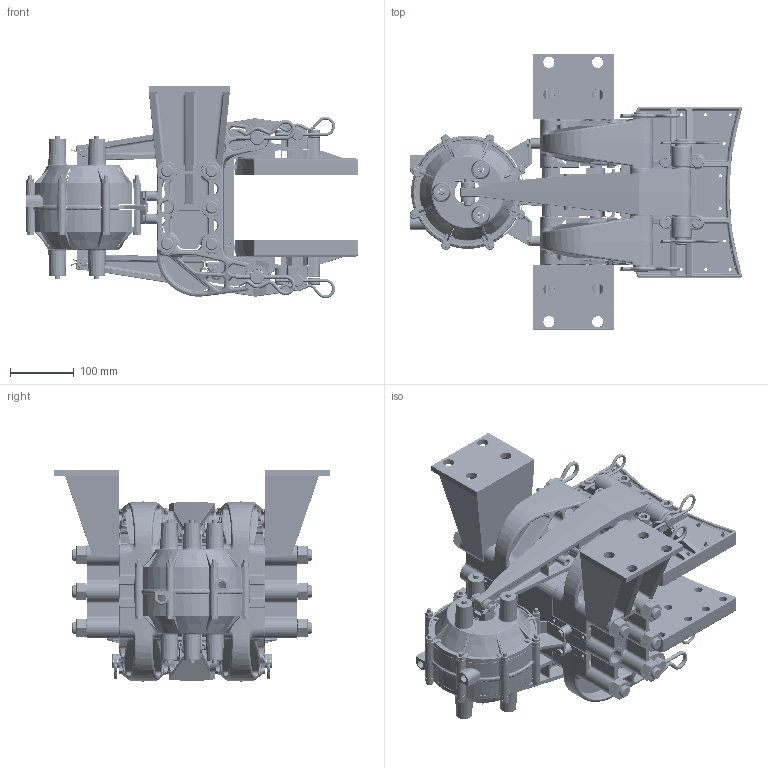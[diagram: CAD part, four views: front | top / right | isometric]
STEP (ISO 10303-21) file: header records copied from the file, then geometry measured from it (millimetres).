
FILE_DESCRIPTION (( 'STEP AP214' ), '1' );
FILE_NAME ('5025-AW_revA.STEP', '2022-12-19T19:21:30', ( '' ), ( '' ), 'SwSTEP 2.0', 'SolidWorks 2021', '' );
FILE_SCHEMA (( 'AUTOMOTIVE_DESIGN' ));
Length unit declared in the file: inch
Products named in the file (1): 5025-AW_revA
Bounding box: 520.07 x 431.8 x 332.55 mm (x, y, z)
Surface area: 1640287.9 mm2 (no closed solid volume)
Topology: 0 solids, 181 shells, 4403 faces, 14398 edges, 9631 vertices
Faces by surface type: cylinder 1245, bspline 1039, plane 1001, cone 597, torus 439, sphere 82
Entity records: 299161 total; most frequent: CARTESIAN_POINT 130838, ORIENTED_EDGE 22433, DIRECTION 21147, EDGE_CURVE 14336, VERTEX_POINT 9631, AXIS2_PLACEMENT_3D 8491, CIRCLE 5126, EDGE_LOOP 4807
